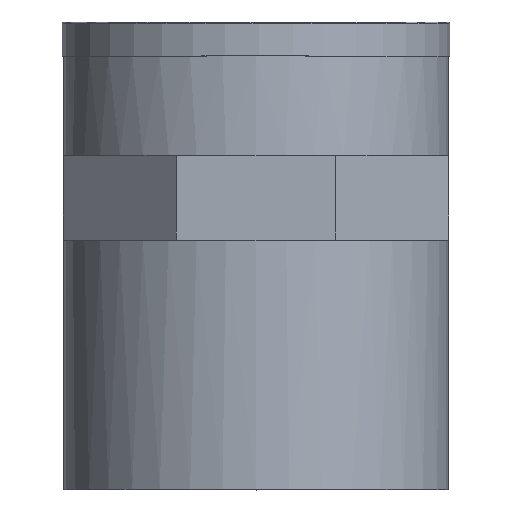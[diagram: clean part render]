
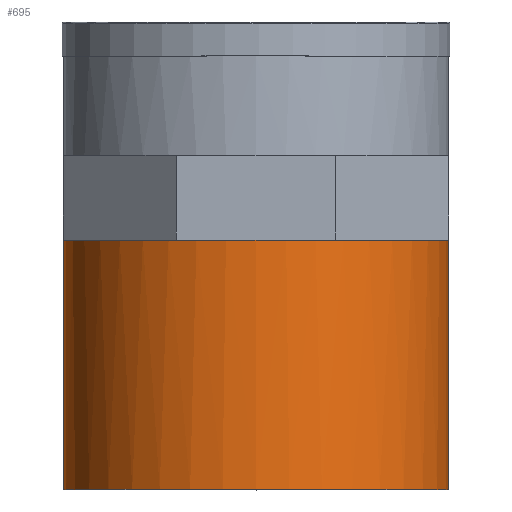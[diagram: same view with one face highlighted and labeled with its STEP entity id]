
A CAD part, top view. The second image highlights one B-rep face of the part: STEP entity #695.
In plain terms, the highlighted cylindrical face has radius 17 mm (diameter 34 mm), a full revolution.
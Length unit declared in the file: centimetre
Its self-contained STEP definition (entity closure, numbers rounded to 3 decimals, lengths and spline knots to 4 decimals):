
#122=CYLINDRICAL_SURFACE('',#767,1.7);
#135=FACE_BOUND('',#234,.T.);
#178=FACE_OUTER_BOUND('',#233,.T.);
#233=EDGE_LOOP('',(#560,#561,#562,#563,#564,#565,#566,#567));
#234=EDGE_LOOP('',(#568));
#247=CIRCLE('',#719,1.7);
#248=CIRCLE('',#721,1.7);
#249=CIRCLE('',#723,1.7);
#250=CIRCLE('',#725,1.7);
#251=CIRCLE('',#727,1.7);
#252=CIRCLE('',#729,1.7);
#253=CIRCLE('',#731,1.7);
#254=CIRCLE('',#733,1.7);
#268=CIRCLE('',#766,1.7);
#287=VERTEX_POINT('',#4292);
#293=VERTEX_POINT('',#4305);
#297=VERTEX_POINT('',#4315);
#300=VERTEX_POINT('',#4324);
#301=VERTEX_POINT('',#4325);
#303=VERTEX_POINT('',#4331);
#305=VERTEX_POINT('',#4337);
#307=VERTEX_POINT('',#4343);
#322=VERTEX_POINT('',#4417);
#362=EDGE_CURVE('',#300,#301,#247,.T.);
#365=EDGE_CURVE('',#303,#300,#248,.T.);
#368=EDGE_CURVE('',#305,#303,#249,.T.);
#371=EDGE_CURVE('',#307,#305,#250,.T.);
#374=EDGE_CURVE('',#287,#307,#251,.T.);
#376=EDGE_CURVE('',#293,#287,#252,.T.);
#377=EDGE_CURVE('',#297,#293,#253,.T.);
#378=EDGE_CURVE('',#301,#297,#254,.T.);
#407=EDGE_CURVE('',#322,#322,#268,.T.);
#560=ORIENTED_EDGE('',*,*,#362,.T.);
#561=ORIENTED_EDGE('',*,*,#378,.T.);
#562=ORIENTED_EDGE('',*,*,#377,.T.);
#563=ORIENTED_EDGE('',*,*,#376,.T.);
#564=ORIENTED_EDGE('',*,*,#374,.T.);
#565=ORIENTED_EDGE('',*,*,#371,.T.);
#566=ORIENTED_EDGE('',*,*,#368,.T.);
#567=ORIENTED_EDGE('',*,*,#365,.T.);
#568=ORIENTED_EDGE('',*,*,#407,.T.);
#695=ADVANCED_FACE('',(#178,#135),#122,.T.);
#719=AXIS2_PLACEMENT_3D('',#4326,#829,#830);
#721=AXIS2_PLACEMENT_3D('',#4332,#835,#836);
#723=AXIS2_PLACEMENT_3D('',#4338,#841,#842);
#725=AXIS2_PLACEMENT_3D('',#4344,#847,#848);
#727=AXIS2_PLACEMENT_3D('',#4349,#853,#854);
#729=AXIS2_PLACEMENT_3D('',#4352,#858,#859);
#731=AXIS2_PLACEMENT_3D('',#4354,#862,#863);
#733=AXIS2_PLACEMENT_3D('',#4356,#866,#867);
#766=AXIS2_PLACEMENT_3D('',#4418,#947,#948);
#767=AXIS2_PLACEMENT_3D('',#4419,#949,#950);
#829=DIRECTION('center_axis',(0.,-1.,0.));
#830=DIRECTION('ref_axis',(-1.,0.,0.));
#835=DIRECTION('center_axis',(0.,-1.,0.));
#836=DIRECTION('ref_axis',(-1.,0.,0.));
#841=DIRECTION('center_axis',(0.,-1.,0.));
#842=DIRECTION('ref_axis',(-1.,0.,0.));
#847=DIRECTION('center_axis',(0.,-1.,0.));
#848=DIRECTION('ref_axis',(-1.,0.,0.));
#853=DIRECTION('center_axis',(0.,-1.,0.));
#854=DIRECTION('ref_axis',(-1.,0.,0.));
#858=DIRECTION('center_axis',(0.,-1.,0.));
#859=DIRECTION('ref_axis',(-1.,0.,0.));
#862=DIRECTION('center_axis',(0.,-1.,0.));
#863=DIRECTION('ref_axis',(-1.,0.,0.));
#866=DIRECTION('center_axis',(0.,-1.,0.));
#867=DIRECTION('ref_axis',(-1.,0.,0.));
#947=DIRECTION('center_axis',(0.,1.,0.));
#948=DIRECTION('ref_axis',(1.,0.,0.));
#949=DIRECTION('center_axis',(0.,1.,0.));
#950=DIRECTION('ref_axis',(-1.,0.,0.));
#4292=CARTESIAN_POINT('',(1.2021,-3.1797,1.2021));
#4305=CARTESIAN_POINT('',(1.7,-3.1797,0.));
#4315=CARTESIAN_POINT('',(1.2021,-3.1797,-1.2021));
#4324=CARTESIAN_POINT('',(-1.2021,-3.1797,-1.2021));
#4325=CARTESIAN_POINT('',(0.,-3.1797,-1.7));
#4326=CARTESIAN_POINT('Origin',(0.,-3.1797,0.));
#4331=CARTESIAN_POINT('',(-1.7,-3.1797,0.));
#4332=CARTESIAN_POINT('Origin',(0.,-3.1797,0.));
#4337=CARTESIAN_POINT('',(-1.2021,-3.1797,1.2021));
#4338=CARTESIAN_POINT('Origin',(0.,-3.1797,0.));
#4343=CARTESIAN_POINT('',(0.,-3.1797,1.7));
#4344=CARTESIAN_POINT('Origin',(0.,-3.1797,0.));
#4349=CARTESIAN_POINT('Origin',(0.,-3.1797,0.));
#4352=CARTESIAN_POINT('Origin',(0.,-3.1797,0.));
#4354=CARTESIAN_POINT('Origin',(0.,-3.1797,0.));
#4356=CARTESIAN_POINT('Origin',(0.,-3.1797,0.));
#4417=CARTESIAN_POINT('',(-1.7,-5.3797,0.));
#4418=CARTESIAN_POINT('Origin',(0.,-5.3797,0.));
#4419=CARTESIAN_POINT('Origin',(0.,-3.3297,0.));
